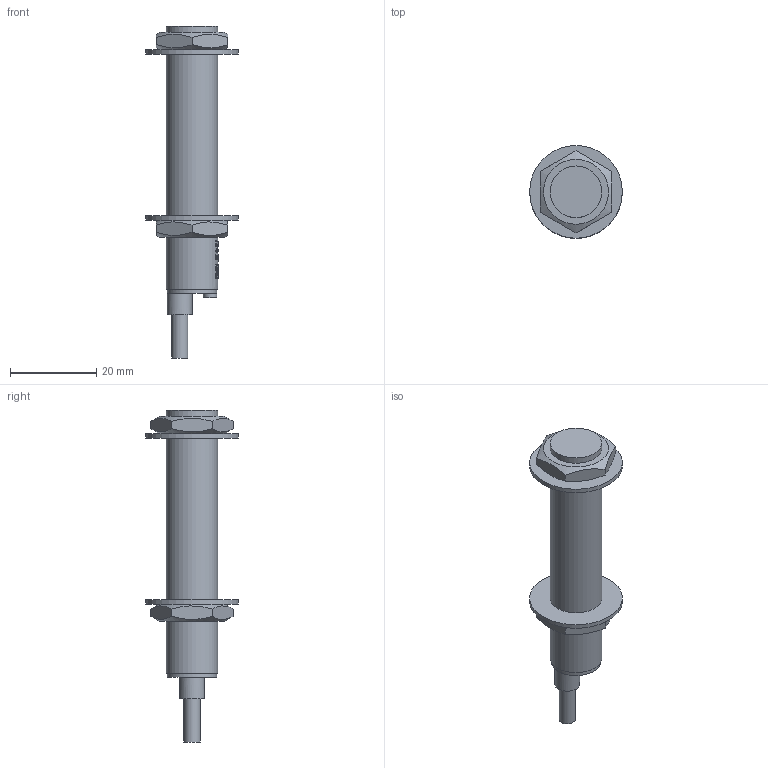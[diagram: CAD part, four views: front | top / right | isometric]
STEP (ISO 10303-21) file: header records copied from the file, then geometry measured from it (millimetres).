
FILE_DESCRIPTION(/* description */ ('D290-00327','CAx-IF Rec.Pracs.---Representation and Presentation of Product Manufacturing Information (PMI)---4.0---2014-10-13'),/* implementation_level */ '2;1');
FILE_NAME(/* name */ '',/* time_stamp */ '2026-04-16T23:22:37+03:00',/* author */ ('DN.RU'),/* organization */ (''),/* preprocessor_version */ 'ST-DEVELOPER v20',/* originating_system */ 'Autodesk Inventor 2025',/* authorisation */ '');
FILE_SCHEMA (('AP242_MANAGED_MODEL_BASED_3D_ENGINEERING_MIM_LF { 1 0 10303 442 1 1 4 }'));
Length unit declared in the file: millimetre
Products named in the file (1): LJ12A3-4-Z/EX
Bounding box: 21.5 x 21.5 x 77 mm (x, y, z)
Volume: 8646.6 mm3; surface area: 4118.6 mm2
Topology: 1 solids, 1 shells, 202 faces, 520 edges, 344 vertices
Faces by surface type: plane 101, bspline 72, cylinder 25, cone 4
Full cylindrical faces by diameter (mm): 3.118 x1, 3.75 x1, 5.75 x1, 11.5 x1, 12 x3, 21.5 x2
Entity records: 8741 total; most frequent: CARTESIAN_POINT 3705, ORIENTED_EDGE 1040, DIRECTION 766, EDGE_CURVE 520, VERTEX_POINT 344, STYLED_ITEM 280, AXIS2_PLACEMENT_3D 257, LINE 252
